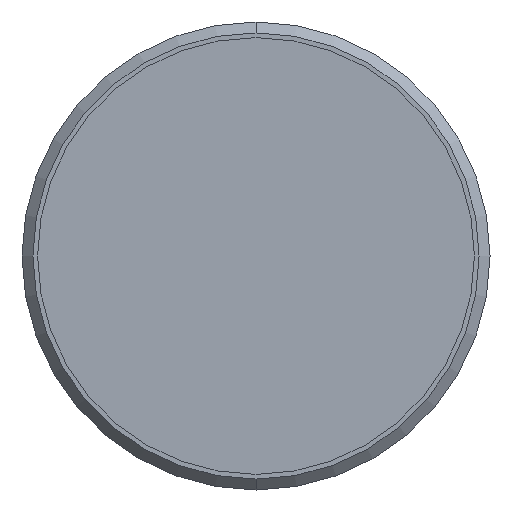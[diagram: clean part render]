
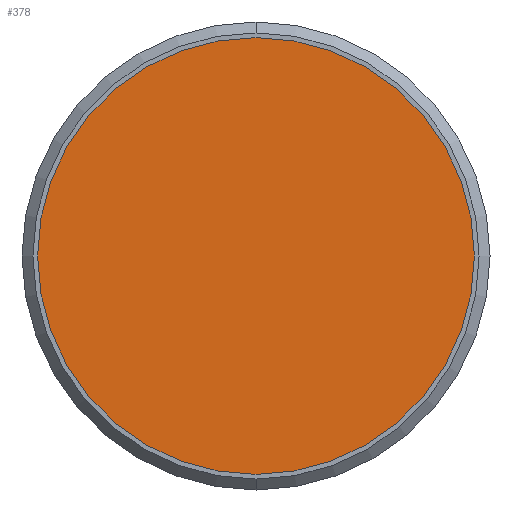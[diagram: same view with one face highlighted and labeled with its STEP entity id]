
A CAD part, front view. The second image highlights one B-rep face of the part: STEP entity #378.
In plain terms, the highlighted planar face has unit normal (0, -1, 0).
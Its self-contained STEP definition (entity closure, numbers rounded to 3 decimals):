
#140 = PLANE ( 'NONE',  #999 ) ;
#160 = ORIENTED_EDGE ( 'NONE', *, *, #488, .F. ) ;
#161 = CIRCLE ( 'NONE', #489, 14. ) ;
#257 = AXIS2_PLACEMENT_3D ( 'NONE', #1102, #370, #460 ) ;
#285 = CARTESIAN_POINT ( 'NONE',  ( 0., 0., 14. ) ) ;
#337 = DIRECTION ( 'NONE',  ( 0., 1., 0. ) ) ;
#370 = DIRECTION ( 'NONE',  ( 0., 1., 0. ) ) ;
#374 = CIRCLE ( 'NONE', #257, 14. ) ;
#378 = ADVANCED_FACE ( 'NONE', ( #1078 ), #140, .F. ) ;
#399 = EDGE_CURVE ( 'NONE', #502, #1198, #161, .T. ) ;
#460 = DIRECTION ( 'NONE',  ( 0., 0., 1. ) ) ;
#488 = EDGE_CURVE ( 'NONE', #1198, #502, #374, .T. ) ;
#489 = AXIS2_PLACEMENT_3D ( 'NONE', #788, #337, #669 ) ;
#502 = VERTEX_POINT ( 'NONE', #1005 ) ;
#669 = DIRECTION ( 'NONE',  ( 0., 0., 1. ) ) ;
#673 = DIRECTION ( 'NONE',  ( 0., 0., 1. ) ) ;
#788 = CARTESIAN_POINT ( 'NONE',  ( 0., 0., 0. ) ) ;
#999 = AXIS2_PLACEMENT_3D ( 'NONE', #1084, #1203, #673 ) ;
#1005 = CARTESIAN_POINT ( 'NONE',  ( 0., 0., -14. ) ) ;
#1072 = ORIENTED_EDGE ( 'NONE', *, *, #399, .F. ) ;
#1078 = FACE_OUTER_BOUND ( 'NONE', #1350, .T. ) ;
#1084 = CARTESIAN_POINT ( 'NONE',  ( 0., 0., 0. ) ) ;
#1102 = CARTESIAN_POINT ( 'NONE',  ( 0., 0., 0. ) ) ;
#1198 = VERTEX_POINT ( 'NONE', #285 ) ;
#1203 = DIRECTION ( 'NONE',  ( 0., 1., 0. ) ) ;
#1350 = EDGE_LOOP ( 'NONE', ( #1072, #160 ) ) ;
